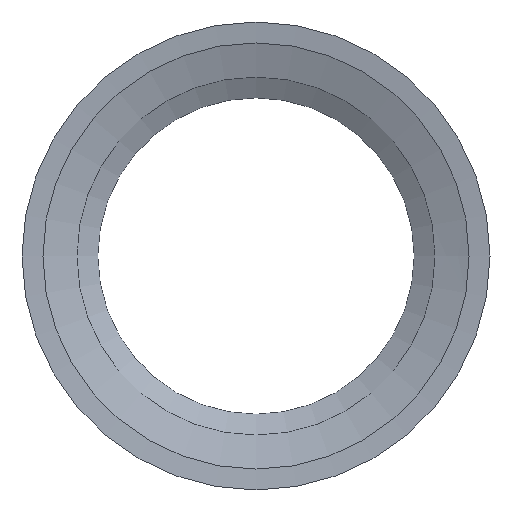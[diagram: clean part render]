
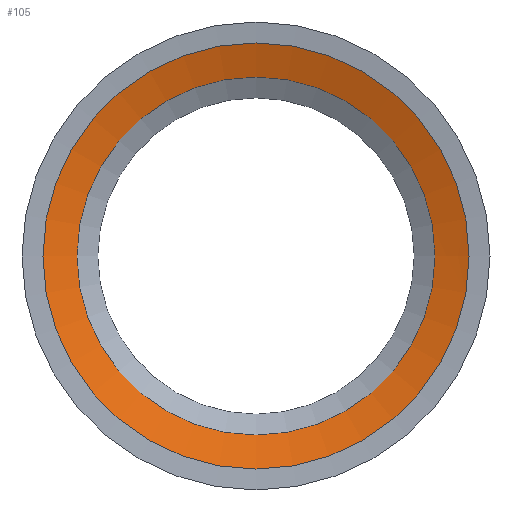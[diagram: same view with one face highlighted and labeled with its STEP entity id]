
A CAD part, top view. The second image highlights one B-rep face of the part: STEP entity #105.
In plain terms, the highlighted spherical face has radius 987 mm.
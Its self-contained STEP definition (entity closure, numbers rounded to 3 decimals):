
#31 = CONICAL_SURFACE('',#32,242.,1.084);
#32 = AXIS2_PLACEMENT_3D('',#33,#34,#35);
#33 = CARTESIAN_POINT('',(0.,0.,34.878));
#34 = DIRECTION('',(0.,0.,1.));
#35 = DIRECTION('',(1.,0.,-0.));
#56 = VERTEX_POINT('',#57);
#57 = CARTESIAN_POINT('',(274.,0.,51.795));
#78 = EDGE_CURVE('',#56,#56,#79,.T.);
#79 = SURFACE_CURVE('',#80,(#85,#92),.PCURVE_S1.);
#80 = CIRCLE('',#81,274.);
#81 = AXIS2_PLACEMENT_3D('',#82,#83,#84);
#82 = CARTESIAN_POINT('',(0.,0.,51.795));
#83 = DIRECTION('',(0.,0.,1.));
#84 = DIRECTION('',(1.,0.,-0.));
#85 = PCURVE('',#31,#86);
#86 = DEFINITIONAL_REPRESENTATION('',(#87),#91);
#87 = LINE('',#88,#89);
#88 = CARTESIAN_POINT('',(0.,16.917));
#89 = VECTOR('',#90,1.);
#90 = DIRECTION('',(1.,0.));
#91 = ( GEOMETRIC_REPRESENTATION_CONTEXT(2) 
PARAMETRIC_REPRESENTATION_CONTEXT() REPRESENTATION_CONTEXT('2D SPACE',''
  ) );
#92 = PCURVE('',#93,#98);
#93 = SPHERICAL_SURFACE('',#94,987.);
#94 = AXIS2_PLACEMENT_3D('',#95,#96,#97);
#95 = CARTESIAN_POINT('',(0.,0.,1000.));
#96 = DIRECTION('',(0.,0.,1.));
#97 = DIRECTION('',(1.,0.,-0.));
#98 = DEFINITIONAL_REPRESENTATION('',(#99),#103);
#99 = LINE('',#100,#101);
#100 = CARTESIAN_POINT('',(0.,-1.289));
#101 = VECTOR('',#102,1.);
#102 = DIRECTION('',(1.,0.));
#103 = ( GEOMETRIC_REPRESENTATION_CONTEXT(2) 
PARAMETRIC_REPRESENTATION_CONTEXT() REPRESENTATION_CONTEXT('2D SPACE',''
  ) );
#105 = ADVANCED_FACE('',(#106),#93,.F.);
#106 = FACE_BOUND('',#107,.F.);
#107 = EDGE_LOOP('',(#108,#109,#133,#160));
#108 = ORIENTED_EDGE('',*,*,#78,.T.);
#109 = ORIENTED_EDGE('',*,*,#110,.T.);
#110 = EDGE_CURVE('',#56,#111,#113,.T.);
#111 = VERTEX_POINT('',#112);
#112 = CARTESIAN_POINT('',(326.,0.,68.392));
#113 = SEAM_CURVE('',#114,(#119,#126),.PCURVE_S1.);
#114 = CIRCLE('',#115,987.);
#115 = AXIS2_PLACEMENT_3D('',#116,#117,#118);
#116 = CARTESIAN_POINT('',(0.,0.,1000.));
#117 = DIRECTION('',(0.,-1.,0.));
#118 = DIRECTION('',(0.278,0.,-0.961));
#119 = PCURVE('',#93,#120);
#120 = DEFINITIONAL_REPRESENTATION('',(#121),#125);
#121 = LINE('',#122,#123);
#122 = CARTESIAN_POINT('',(0.,-1.289));
#123 = VECTOR('',#124,1.);
#124 = DIRECTION('',(0.,1.));
#125 = ( GEOMETRIC_REPRESENTATION_CONTEXT(2) 
PARAMETRIC_REPRESENTATION_CONTEXT() REPRESENTATION_CONTEXT('2D SPACE',''
  ) );
#126 = PCURVE('',#93,#127);
#127 = DEFINITIONAL_REPRESENTATION('',(#128),#132);
#128 = LINE('',#129,#130);
#129 = CARTESIAN_POINT('',(6.283,-1.289));
#130 = VECTOR('',#131,1.);
#131 = DIRECTION('',(0.,1.));
#132 = ( GEOMETRIC_REPRESENTATION_CONTEXT(2) 
PARAMETRIC_REPRESENTATION_CONTEXT() REPRESENTATION_CONTEXT('2D SPACE',''
  ) );
#133 = ORIENTED_EDGE('',*,*,#134,.F.);
#134 = EDGE_CURVE('',#111,#111,#135,.T.);
#135 = SURFACE_CURVE('',#136,(#141,#148),.PCURVE_S1.);
#136 = CIRCLE('',#137,326.);
#137 = AXIS2_PLACEMENT_3D('',#138,#139,#140);
#138 = CARTESIAN_POINT('',(0.,0.,68.392));
#139 = DIRECTION('',(0.,0.,1.));
#140 = DIRECTION('',(1.,0.,-0.));
#141 = PCURVE('',#93,#142);
#142 = DEFINITIONAL_REPRESENTATION('',(#143),#147);
#143 = LINE('',#144,#145);
#144 = CARTESIAN_POINT('',(0.,-1.234));
#145 = VECTOR('',#146,1.);
#146 = DIRECTION('',(1.,0.));
#147 = ( GEOMETRIC_REPRESENTATION_CONTEXT(2) 
PARAMETRIC_REPRESENTATION_CONTEXT() REPRESENTATION_CONTEXT('2D SPACE',''
  ) );
#148 = PCURVE('',#149,#154);
#149 = CONICAL_SURFACE('',#150,326.,1.47);
#150 = AXIS2_PLACEMENT_3D('',#151,#152,#153);
#151 = CARTESIAN_POINT('',(0.,0.,68.392));
#152 = DIRECTION('',(0.,0.,1.));
#153 = DIRECTION('',(1.,0.,-0.));
#154 = DEFINITIONAL_REPRESENTATION('',(#155),#159);
#155 = LINE('',#156,#157);
#156 = CARTESIAN_POINT('',(0.,0.));
#157 = VECTOR('',#158,1.);
#158 = DIRECTION('',(1.,0.));
#159 = ( GEOMETRIC_REPRESENTATION_CONTEXT(2) 
PARAMETRIC_REPRESENTATION_CONTEXT() REPRESENTATION_CONTEXT('2D SPACE',''
  ) );
#160 = ORIENTED_EDGE('',*,*,#110,.F.);
